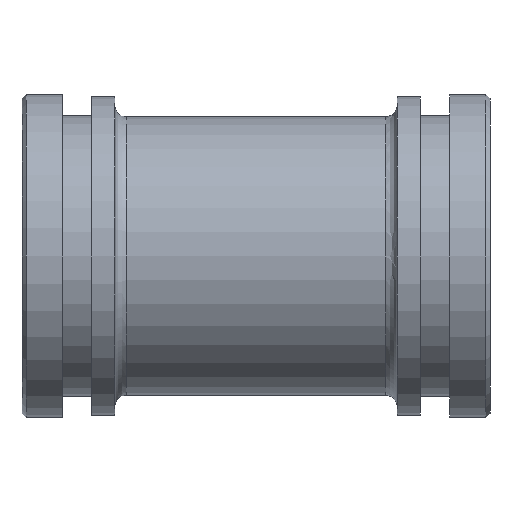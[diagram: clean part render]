
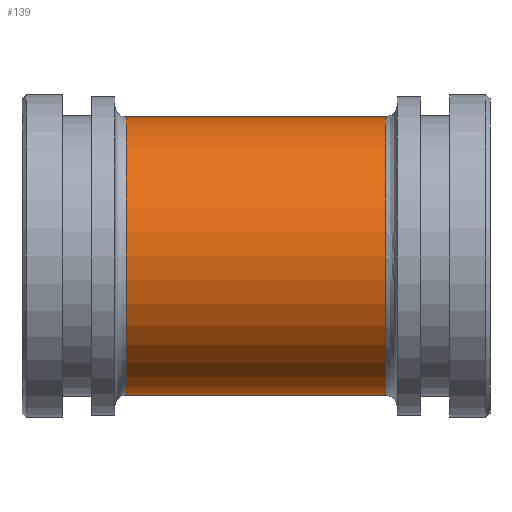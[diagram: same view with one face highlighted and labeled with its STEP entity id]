
A CAD part, front view. The second image highlights one B-rep face of the part: STEP entity #139.
In plain terms, the highlighted cylindrical face has radius 17.25 mm (diameter 34.5 mm), a full revolution.
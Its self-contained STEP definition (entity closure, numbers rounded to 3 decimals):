
#97=CARTESIAN_POINT('',(16.1,17.25,0.0));
#98=VERTEX_POINT('',#97);
#99=CARTESIAN_POINT('',(16.1,0.0,0.0));
#100=DIRECTION('',(1.0,0.0,0.0));
#101=DIRECTION('',(0.0,-1.0,0.0));
#102=AXIS2_PLACEMENT_3D('',#99,#100,#101);
#103=CIRCLE('',#102,17.25);
#104=EDGE_CURVE('',#98,#98,#103,.T.);
#120=CARTESIAN_POINT('',(0.0,0.0,0.0));
#121=DIRECTION('',(1.0,0.0,0.0));
#122=DIRECTION('',(0.0,1.0,0.0));
#123=AXIS2_PLACEMENT_3D('',#120,#121,#122);
#124=CYLINDRICAL_SURFACE('',#123,17.25);
#125=CARTESIAN_POINT('',(-16.1,17.25,0.));
#126=VERTEX_POINT('',#125);
#127=CARTESIAN_POINT('',(-16.1,0.0,0.0));
#128=DIRECTION('',(-1.0,0.0,0.0));
#129=DIRECTION('',(0.0,-1.0,0.0));
#130=AXIS2_PLACEMENT_3D('',#127,#128,#129);
#131=CIRCLE('',#130,17.25);
#132=EDGE_CURVE('',#126,#126,#131,.T.);
#133=ORIENTED_EDGE('',*,*,#132,.F.);
#134=EDGE_LOOP('',(#133));
#135=FACE_OUTER_BOUND('',#134,.T.);
#136=ORIENTED_EDGE('',*,*,#104,.F.);
#137=EDGE_LOOP('',(#136));
#138=FACE_BOUND('',#137,.T.);
#139=ADVANCED_FACE('',(#135,#138),#124,.T.);
